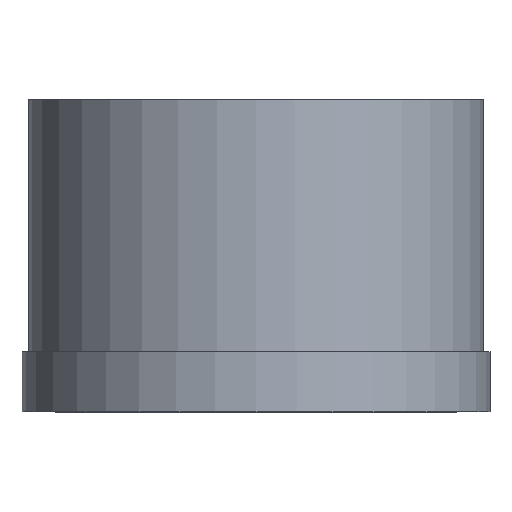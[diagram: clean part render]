
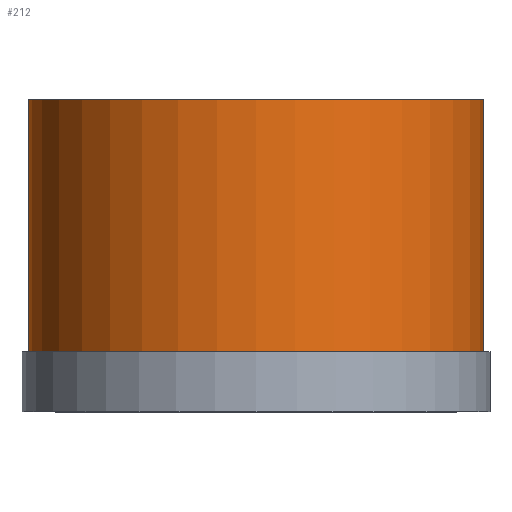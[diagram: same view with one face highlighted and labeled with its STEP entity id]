
A CAD part, front view. The second image highlights one B-rep face of the part: STEP entity #212.
In plain terms, the highlighted cylindrical face has radius 9.469 mm (diameter 18.938 mm), a full revolution.
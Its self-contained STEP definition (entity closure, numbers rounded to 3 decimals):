
#32 = FACE_OUTER_BOUND ( 'NONE', #76, .T. ) ;
#39 = FACE_OUTER_BOUND ( 'NONE', #255, .T. ) ;
#42 = CYLINDRICAL_SURFACE ( 'NONE', #221, 9.469 ) ;
#48 = CARTESIAN_POINT ( 'NONE',  ( -9.469, 0., 2.5 ) ) ;
#50 = CARTESIAN_POINT ( 'NONE',  ( 9.469, 0., 13. ) ) ;
#53 = DIRECTION ( 'NONE',  ( 1., 0., 0. ) ) ;
#61 = CARTESIAN_POINT ( 'NONE',  ( 0., 0., 0. ) ) ;
#76 = EDGE_LOOP ( 'NONE', ( #78 ) ) ;
#78 = ORIENTED_EDGE ( 'NONE', *, *, #268, .T. ) ;
#83 = VERTEX_POINT ( 'NONE', #48 ) ;
#87 = CARTESIAN_POINT ( 'NONE',  ( 0., 0., 13. ) ) ;
#96 = ORIENTED_EDGE ( 'NONE', *, *, #204, .F. ) ;
#117 = DIRECTION ( 'NONE',  ( -1., 0., 0. ) ) ;
#124 = AXIS2_PLACEMENT_3D ( 'NONE', #87, #138, #164 ) ;
#138 = DIRECTION ( 'NONE',  ( 0., 0., 1. ) ) ;
#155 = CIRCLE ( 'NONE', #216, 9.469 ) ;
#164 = DIRECTION ( 'NONE',  ( 1., 0., 0. ) ) ;
#179 = CIRCLE ( 'NONE', #124, 9.469 ) ;
#204 = EDGE_CURVE ( 'NONE', #218, #218, #179, .T. ) ;
#206 = CARTESIAN_POINT ( 'NONE',  ( 0., 0., 2.5 ) ) ;
#212 = ADVANCED_FACE ( 'NONE', ( #39, #32 ), #42, .T. ) ;
#216 = AXIS2_PLACEMENT_3D ( 'NONE', #206, #251, #117 ) ;
#218 = VERTEX_POINT ( 'NONE', #50 ) ;
#221 = AXIS2_PLACEMENT_3D ( 'NONE', #61, #254, #53 ) ;
#251 = DIRECTION ( 'NONE',  ( 0., 0., 1. ) ) ;
#254 = DIRECTION ( 'NONE',  ( 0., 0., 1. ) ) ;
#255 = EDGE_LOOP ( 'NONE', ( #96 ) ) ;
#268 = EDGE_CURVE ( 'NONE', #83, #83, #155, .T. ) ;
